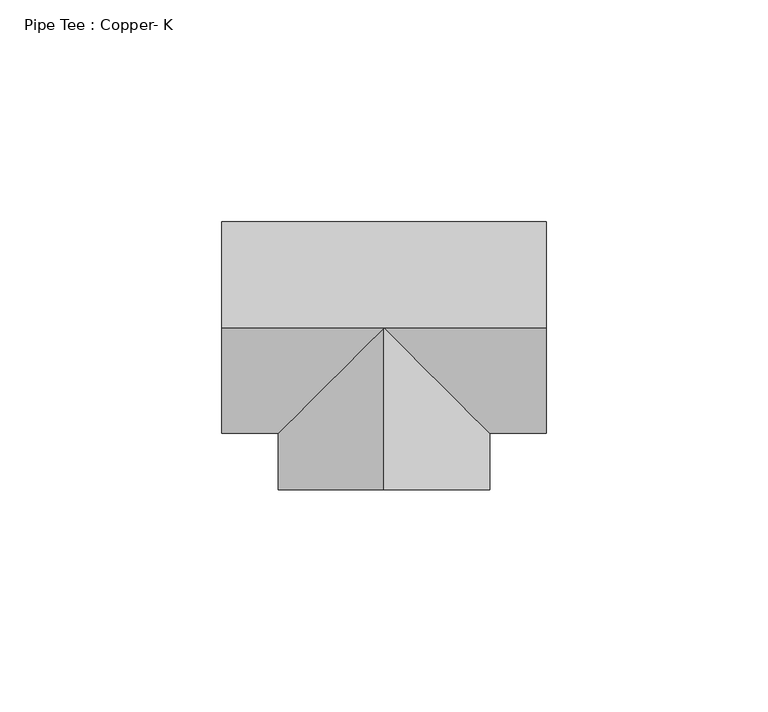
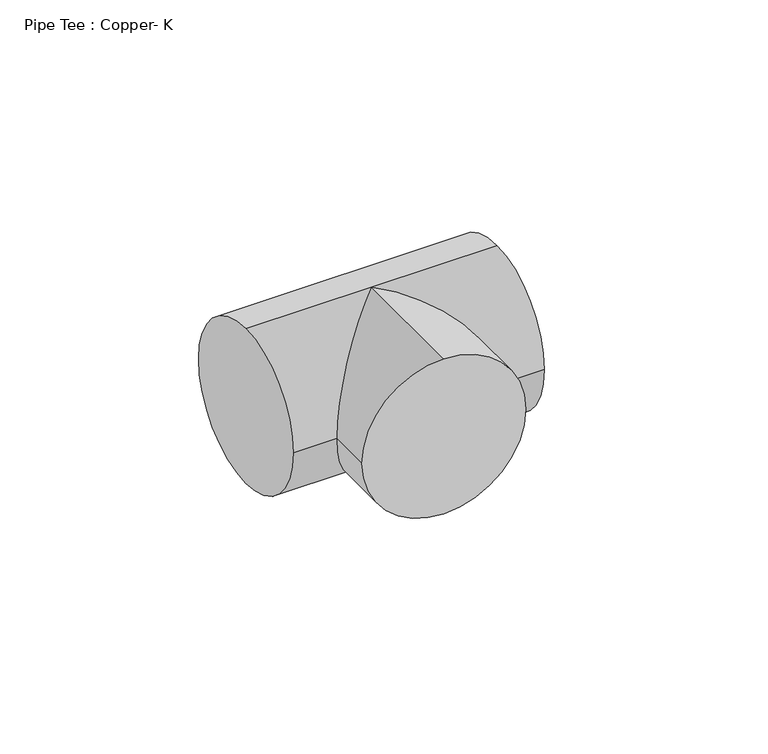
"""IFC4 building model written with IfcOpenShell, lengths in millimetres: pipe fitting geometry, Pipe Tee : Copper- K."""

from ifc_helpers import new_model, si_unit, frame, origin, place, context, project, spatial, circle_curve, ellipse_curve, source, transform, mapped, element, save
from ifc_brep_helpers import plane_surface, cylinder_surface, advanced_brep


def pipe_tee_copper_k_25e69e3c(model_context):
    return source(origin(), model_context, "Body", "AdvancedBrep", [
        advanced_brep(
        [(-36.5125, 0.0, 23.8125), (-36.5125, 23.8125, 0.0), (-36.5125, 0.0, -23.8125), (-36.5125, -23.8125, 0.0), (36.5125, 0.0, 23.8125), (36.5125, -23.8125, 0.0), (36.5125, 0.0, -23.8125), (36.5125, 23.8125, 0.0), (0.0, 0.0, 23.8125), (0.0, 0.0, -23.8125), (-23.8125028, -23.8125, 0.0), (23.8124972, -23.8125, 0.0), (-4.3e-06, -36.5125, 23.8125), (-23.8125043, -36.5124972, 0.0), (-4.3e-06, -36.5125, -23.8125), (23.8124957, -36.5125028, 0.0)],
        [
            (0, 1, circle_curve(frame((-36.5125, 0.0, 0.0), z_axis=(-1.0, 0.0, 0.0), x_axis=(0.0, 1.0, 0.0)), 23.8125)),
            (1, 2, circle_curve(frame((-36.5125, 0.0, 0.0), z_axis=(-1.0, 0.0, 0.0), x_axis=(0.0, 1.0, 0.0)), 23.8125)),
            (2, 3, circle_curve(frame((-36.5125, 0.0, 0.0), z_axis=(-1.0, 0.0, 0.0), x_axis=(0.0, 1.0, 0.0)), 23.8125)),
            (3, 0, circle_curve(frame((-36.5125, 0.0, 0.0), z_axis=(-1.0, 0.0, 0.0), x_axis=(0.0, 1.0, 0.0)), 23.8125)),
            (4, 5, circle_curve(frame((36.5125, 0.0, 0.0), z_axis=(1.0, 0.0, 0.0), x_axis=(0.0, 1.0, 0.0)), 23.8125)),
            (5, 6, circle_curve(frame((36.5125, 0.0, 0.0), z_axis=(1.0, 0.0, 0.0), x_axis=(0.0, 1.0, 0.0)), 23.8125)),
            (6, 7, circle_curve(frame((36.5125, 0.0, 0.0), z_axis=(1.0, 0.0, 0.0), x_axis=(0.0, 1.0, 0.0)), 23.8125)),
            (7, 4, circle_curve(frame((36.5125, 0.0, 0.0), z_axis=(1.0, 0.0, 0.0), x_axis=(0.0, 1.0, 0.0)), 23.8125)),
            (0, 8),
            (8, 4),
            (7, 1),
            (6, 9),
            (9, 2),
            (9, 10, ellipse_curve(frame((0.0, 0.0, 0.0), z_axis=(-0.7071067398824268, 0.707106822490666, 0.0), x_axis=(-0.7071068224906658, -0.7071067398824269, 0.0)), 33.6759624, 23.8125)),
            (10, 3),
            (5, 11),
            (11, 9, ellipse_curve(frame((0.0, 0.0, 0.0), z_axis=(0.7071068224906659, 0.7071067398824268, 0.0), x_axis=(-0.7071067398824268, 0.707106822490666, 0.0)), 33.6759585, 23.8125)),
            (10, 8, ellipse_curve(frame((0.0, 0.0, 0.0), z_axis=(-0.7071067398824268, 0.707106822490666, 0.0), x_axis=(-0.7071068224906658, -0.7071067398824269, 0.0)), 33.6759624, 23.8125)),
            (8, 11, ellipse_curve(frame((0.0, 0.0, 0.0), z_axis=(0.7071068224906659, 0.7071067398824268, 0.0), x_axis=(-0.7071067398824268, 0.707106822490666, 0.0)), 33.6759585, 23.8125)),
            (12, 13, circle_curve(frame((-4.3e-06, -36.5125, 0.0), z_axis=(-1.168256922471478e-07, -0.9999999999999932, 0.0), x_axis=(0.9999999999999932, -1.168256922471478e-07, 0.0)), 23.8125)),
            (13, 14, circle_curve(frame((-4.3e-06, -36.5125, 0.0), z_axis=(-1.168256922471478e-07, -0.9999999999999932, 0.0), x_axis=(0.9999999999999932, -1.168256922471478e-07, 0.0)), 23.8125)),
            (14, 15, circle_curve(frame((-4.3e-06, -36.5125, 0.0), z_axis=(-1.168256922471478e-07, -0.9999999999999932, 0.0), x_axis=(0.9999999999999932, -1.168256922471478e-07, 0.0)), 23.8125)),
            (15, 12, circle_curve(frame((-4.3e-06, -36.5125, 0.0), z_axis=(-1.168256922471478e-07, -0.9999999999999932, 0.0), x_axis=(0.9999999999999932, -1.168256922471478e-07, 0.0)), 23.8125)),
            (15, 11),
            (8, 12),
            (14, 9),
            (13, 10),
        ],
        [
            plane_surface(frame((-36.5125, 0.0, 0.0), z_axis=(-1.0, 0.0, 0.0), x_axis=(0.0, 0.0, 1.0))),
            plane_surface(frame((36.5125, 0.0, 0.0), z_axis=(1.0, 0.0, 0.0), x_axis=(0.0, 0.0, 1.0))),
            cylinder_surface(frame((-36.5125, 0.0, 0.0), z_axis=(-1.0, 0.0, 0.0), x_axis=(0.0, 1.0, 0.0)), 23.8125),
            plane_surface(frame((-4.3e-06, -36.5125, 0.0), z_axis=(-1.168256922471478e-07, -0.9999999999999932, 0.0), x_axis=(0.0, 0.0, 1.0))),
            cylinder_surface(frame((0.0, 0.0, 0.0), z_axis=(1.168256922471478e-07, 0.9999999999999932, 0.0), x_axis=(0.9999999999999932, -1.168256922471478e-07, 0.0)), 23.8125),
        ],
        [
            (0, [[1, 2, 3, 4]]),
            (1, [[5, 6, 7, 8]]),
            (2, [[-1, 9, 10, -8, 11]]),
            (2, [[-2, -11, -7, 12, 13]]),
            (2, [[-3, -13, 14, 15]]),
            (2, [[-6, 16, 17, -12]]),
            (2, [[-4, -15, 18, -9]]),
            (2, [[-5, -10, 19, -16]]),
            (3, [[20, 21, 22, 23]]),
            (4, [[-23, 24, -19, 25]]),
            (4, [[-22, 26, -17, -24]]),
            (4, [[-21, 27, -14, -26]]),
            (4, [[-20, -25, -18, -27]]),
        ],
    ),
        advanced_brep(
        [(-36.5125, 0.0, 23.8125), (-36.5125, 23.8125, 0.0), (-36.5125, 0.0, -23.8125), (-36.5125, -23.8125, 0.0), (36.5125, 0.0, 23.8125), (36.5125, -23.8125, 0.0), (36.5125, 0.0, -23.8125), (36.5125, 23.8125, 0.0), (0.0, 0.0, 23.8125), (0.0, 0.0, -23.8125), (-23.8125028, -23.8125, 0.0), (23.8124972, -23.8125, 0.0), (-4.3e-06, -36.5125, 23.8125), (-23.8125043, -36.5124972, 0.0), (-4.3e-06, -36.5125, -23.8125), (23.8124957, -36.5125028, 0.0)],
        [
            (0, 1, circle_curve(frame((-36.5125, 0.0, 0.0), z_axis=(-1.0, 0.0, 0.0), x_axis=(0.0, 1.0, 0.0)), 23.8125)),
            (1, 2, circle_curve(frame((-36.5125, 0.0, 0.0), z_axis=(-1.0, 0.0, 0.0), x_axis=(0.0, 1.0, 0.0)), 23.8125)),
            (2, 3, circle_curve(frame((-36.5125, 0.0, 0.0), z_axis=(-1.0, 0.0, 0.0), x_axis=(0.0, 1.0, 0.0)), 23.8125)),
            (3, 0, circle_curve(frame((-36.5125, 0.0, 0.0), z_axis=(-1.0, 0.0, 0.0), x_axis=(0.0, 1.0, 0.0)), 23.8125)),
            (4, 5, circle_curve(frame((36.5125, 0.0, 0.0), z_axis=(1.0, 0.0, 0.0), x_axis=(0.0, 1.0, 0.0)), 23.8125)),
            (5, 6, circle_curve(frame((36.5125, 0.0, 0.0), z_axis=(1.0, 0.0, 0.0), x_axis=(0.0, 1.0, 0.0)), 23.8125)),
            (6, 7, circle_curve(frame((36.5125, 0.0, 0.0), z_axis=(1.0, 0.0, 0.0), x_axis=(0.0, 1.0, 0.0)), 23.8125)),
            (7, 4, circle_curve(frame((36.5125, 0.0, 0.0), z_axis=(1.0, 0.0, 0.0), x_axis=(0.0, 1.0, 0.0)), 23.8125)),
            (0, 8),
            (8, 4),
            (7, 1),
            (6, 9),
            (9, 2),
            (9, 10, ellipse_curve(frame((0.0, 0.0, 0.0), z_axis=(-0.7071067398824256, 0.707106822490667, 0.0), x_axis=(-0.7071068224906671, -0.7071067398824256, 0.0)), 33.6759624, 23.8125)),
            (10, 3),
            (5, 11),
            (11, 9, ellipse_curve(frame((0.0, 0.0, 0.0), z_axis=(0.707106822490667, 0.7071067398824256, 0.0), x_axis=(-0.7071067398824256, 0.707106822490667, 0.0)), 33.6759585, 23.8125)),
            (10, 8, ellipse_curve(frame((0.0, 0.0, 0.0), z_axis=(-0.7071067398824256, 0.707106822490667, 0.0), x_axis=(-0.7071068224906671, -0.7071067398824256, 0.0)), 33.6759624, 23.8125)),
            (8, 11, ellipse_curve(frame((0.0, 0.0, 0.0), z_axis=(0.707106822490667, 0.7071067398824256, 0.0), x_axis=(-0.7071067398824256, 0.707106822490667, 0.0)), 33.6759585, 23.8125)),
            (12, 13, circle_curve(frame((-4.3e-06, -36.5125, 0.0), z_axis=(-1.168256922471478e-07, -0.9999999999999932, 0.0), x_axis=(0.9999999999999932, -1.168256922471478e-07, 0.0)), 23.8125)),
            (13, 14, circle_curve(frame((-4.3e-06, -36.5125, 0.0), z_axis=(-1.168256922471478e-07, -0.9999999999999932, 0.0), x_axis=(0.9999999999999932, -1.168256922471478e-07, 0.0)), 23.8125)),
            (14, 15, circle_curve(frame((-4.3e-06, -36.5125, 0.0), z_axis=(-1.168256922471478e-07, -0.9999999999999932, 0.0), x_axis=(0.9999999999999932, -1.168256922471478e-07, 0.0)), 23.8125)),
            (15, 12, circle_curve(frame((-4.3e-06, -36.5125, 0.0), z_axis=(-1.168256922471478e-07, -0.9999999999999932, 0.0), x_axis=(0.9999999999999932, -1.168256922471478e-07, 0.0)), 23.8125)),
            (15, 11),
            (8, 12),
            (14, 9),
            (13, 10),
        ],
        [
            plane_surface(frame((-36.5125, 0.0, 0.0), z_axis=(-1.0, 0.0, 0.0), x_axis=(0.0, 0.0, 1.0))),
            plane_surface(frame((36.5125, 0.0, 0.0), z_axis=(1.0, 0.0, 0.0), x_axis=(0.0, 0.0, 1.0))),
            cylinder_surface(frame((-36.5125, 0.0, 0.0), z_axis=(-1.0, 0.0, 0.0), x_axis=(0.0, 1.0, 0.0)), 23.8125),
            plane_surface(frame((-4.3e-06, -36.5125, 0.0), z_axis=(-1.168256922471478e-07, -0.9999999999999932, 0.0), x_axis=(0.0, 0.0, 1.0))),
            cylinder_surface(frame((0.0, 0.0, 0.0), z_axis=(1.168256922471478e-07, 0.9999999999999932, 0.0), x_axis=(0.9999999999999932, -1.168256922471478e-07, 0.0)), 23.8125),
        ],
        [
            (0, [[1, 2, 3, 4]]),
            (1, [[5, 6, 7, 8]]),
            (2, [[-1, 9, 10, -8, 11]]),
            (2, [[-2, -11, -7, 12, 13]]),
            (2, [[-3, -13, 14, 15]]),
            (2, [[-6, 16, 17, -12]]),
            (2, [[-4, -15, 18, -9]]),
            (2, [[-5, -10, 19, -16]]),
            (3, [[20, 21, 22, 23]]),
            (4, [[-23, 24, -19, 25]]),
            (4, [[-22, 26, -17, -24]]),
            (4, [[-21, 27, -14, -26]]),
            (4, [[-20, -25, -18, -27]]),
        ],
    ),
    ])


if __name__ == "__main__":
    model = new_model("IFC4")
    model_context = context("Model", 3, world=origin())
    ifc_project = project(units=[si_unit("LENGTHUNIT", "METRE", prefix="MILLI")], contexts=[model_context])
    site = spatial("IfcSite", under=ifc_project)
    building = spatial("IfcBuilding", under=site)
    placement = place(None, origin())
    pipe_tee_copper_k_shape = pipe_tee_copper_k_25e69e3c(model_context)
    element("IfcPipeFitting", 1, ObjectType="Pipe Tee : Copper- K", at=placement, inside=building, context=model_context, shape_type="MappedRepresentation", body=[
        mapped(pipe_tee_copper_k_shape, transform((0.0, 0.0, 0.0), x_axis=(1.0, 0.0, 0.0), y_axis=(0.0, 1.0, 0.0), z_axis=(0.0, 0.0, 1.0))),
    ])
    save(model, "model.ifc")
